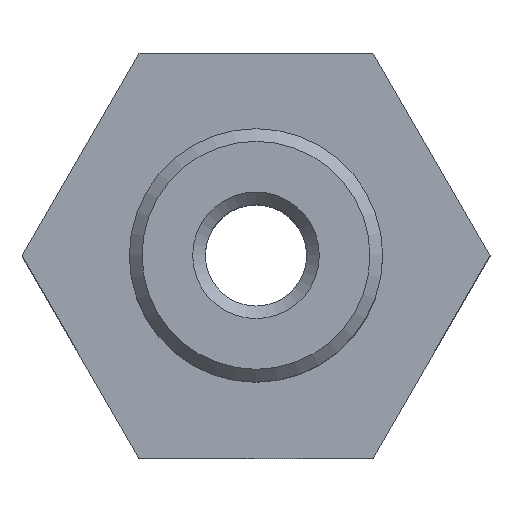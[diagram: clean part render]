
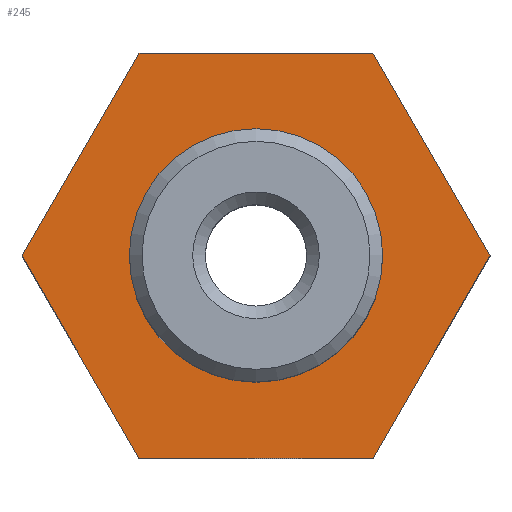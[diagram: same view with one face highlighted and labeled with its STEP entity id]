
A CAD part, top view. The second image highlights one B-rep face of the part: STEP entity #245.
In plain terms, the highlighted planar face has unit normal (0, 0, 1).
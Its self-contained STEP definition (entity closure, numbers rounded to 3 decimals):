
#21=LINE('',#392,#39);
#24=LINE('',#397,#42);
#26=LINE('',#401,#44);
#28=LINE('',#405,#46);
#30=LINE('',#409,#48);
#32=LINE('',#412,#50);
#39=VECTOR('',#325,10.);
#42=VECTOR('',#330,10.);
#44=VECTOR('',#334,10.);
#46=VECTOR('',#338,10.);
#48=VECTOR('',#342,10.);
#50=VECTOR('',#346,10.);
#59=PLANE('',#278);
#72=FACE_BOUND('',#114,.T.);
#88=FACE_OUTER_BOUND('',#113,.T.);
#113=EDGE_LOOP('',(#219,#220,#221,#222,#223,#224));
#114=EDGE_LOOP('',(#225));
#122=CIRCLE('',#268,2.5);
#137=VERTEX_POINT('',#383);
#139=VERTEX_POINT('',#390);
#140=VERTEX_POINT('',#391);
#141=VERTEX_POINT('',#396);
#142=VERTEX_POINT('',#400);
#143=VERTEX_POINT('',#404);
#144=VERTEX_POINT('',#408);
#158=EDGE_CURVE('',#137,#137,#122,.T.);
#160=EDGE_CURVE('',#139,#140,#21,.T.);
#163=EDGE_CURVE('',#140,#141,#24,.T.);
#165=EDGE_CURVE('',#141,#142,#26,.T.);
#167=EDGE_CURVE('',#142,#143,#28,.T.);
#169=EDGE_CURVE('',#143,#144,#30,.T.);
#171=EDGE_CURVE('',#144,#139,#32,.T.);
#219=ORIENTED_EDGE('',*,*,#160,.F.);
#220=ORIENTED_EDGE('',*,*,#171,.F.);
#221=ORIENTED_EDGE('',*,*,#169,.F.);
#222=ORIENTED_EDGE('',*,*,#167,.F.);
#223=ORIENTED_EDGE('',*,*,#165,.F.);
#224=ORIENTED_EDGE('',*,*,#163,.F.);
#225=ORIENTED_EDGE('',*,*,#158,.T.);
#245=ADVANCED_FACE('',(#88,#72),#59,.T.);
#268=AXIS2_PLACEMENT_3D('',#384,#315,#316);
#278=AXIS2_PLACEMENT_3D('',#413,#347,#348);
#315=DIRECTION('center_axis',(0.,0.,-1.));
#316=DIRECTION('ref_axis',(-1.,0.,0.));
#325=DIRECTION('',(-1.,0.,0.));
#330=DIRECTION('',(-0.5,0.866,0.));
#334=DIRECTION('',(0.5,0.866,0.));
#338=DIRECTION('',(1.,0.,0.));
#342=DIRECTION('',(0.5,-0.866,0.));
#346=DIRECTION('',(-0.5,-0.866,0.));
#347=DIRECTION('center_axis',(0.,0.,1.));
#348=DIRECTION('ref_axis',(1.,0.,0.));
#383=CARTESIAN_POINT('',(2.5,0.,7.));
#384=CARTESIAN_POINT('Origin',(0.,0.,7.));
#390=CARTESIAN_POINT('',(2.309,-4.,7.));
#391=CARTESIAN_POINT('',(-2.309,-4.,7.));
#392=CARTESIAN_POINT('',(2.309,-4.,7.));
#396=CARTESIAN_POINT('',(-4.619,0.,7.));
#397=CARTESIAN_POINT('',(-2.309,-4.,7.));
#400=CARTESIAN_POINT('',(-2.309,4.,7.));
#401=CARTESIAN_POINT('',(-4.619,0.,7.));
#404=CARTESIAN_POINT('',(2.309,4.,7.));
#405=CARTESIAN_POINT('',(-2.309,4.,7.));
#408=CARTESIAN_POINT('',(4.619,0.,7.));
#409=CARTESIAN_POINT('',(2.309,4.,7.));
#412=CARTESIAN_POINT('',(4.619,0.,7.));
#413=CARTESIAN_POINT('Origin',(0.,0.,
7.));
